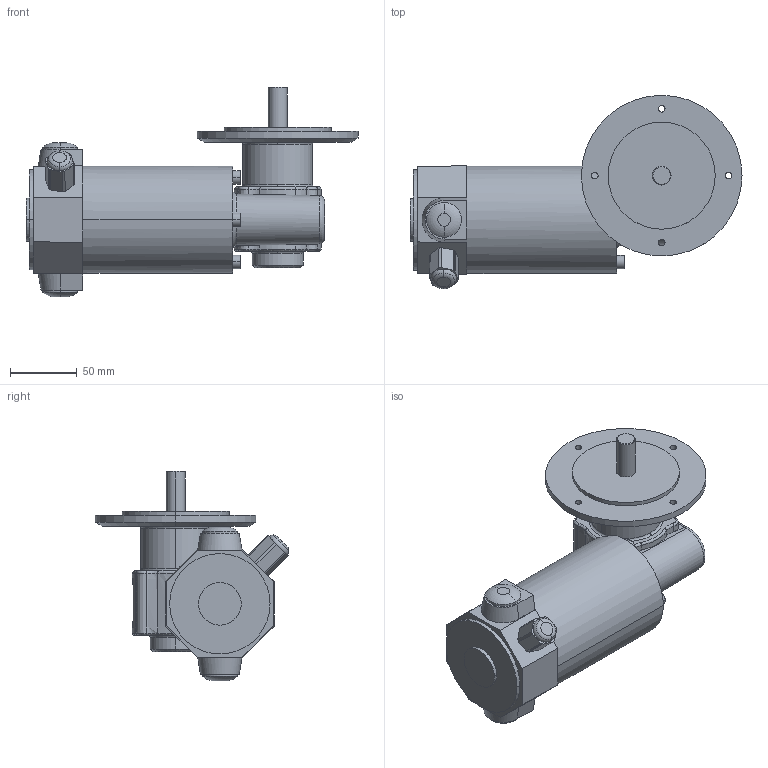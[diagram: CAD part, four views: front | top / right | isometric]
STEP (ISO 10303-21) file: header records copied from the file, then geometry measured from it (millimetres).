
FILE_DESCRIPTION(('OneSpaceDesigner STEP Export'),'2;1');
FILE_NAME('EPG12_GF131.stp','2008-07-10T 7:53:25',(''),(''),'OneSpace Designer STEP processor (Jan. 2003) for AP214(CD)(Solid Model)','OneSpace Designer 12.01D 09-Jul-2004 (C) CoCreate Software GmbH','');
FILE_SCHEMA(('AUTOMOTIVE_DESIGN_CC2 {1 2 10303 214 -1 1 5 1}'));
Length unit declared in the file: millimetre
Products named in the file (2): EPG12_GF131
Assembly tree (1 placements, depth 2):
  EPG12_GF131
    EPG12_GF131
Bounding box: 248 x 144.4 x 156.5 mm (x, y, z)
Volume: 1228924.8 mm3; surface area: 101850.4 mm2
Topology: 1 solids, 1 shells, 187 faces, 467 edges, 297 vertices
Faces by surface type: plane 49, cylinder 46, bspline 41, extrusion 25, torus 14, cone 12
Entity records: 16037 total; most frequent: CARTESIAN_POINT 12291, ORIENTED_EDGE 934, DIRECTION 498, EDGE_CURVE 467, VERTEX_POINT 297, EDGE_LOOP 210, FACE_OUTER_BOUND 187, ADVANCED_FACE 187
